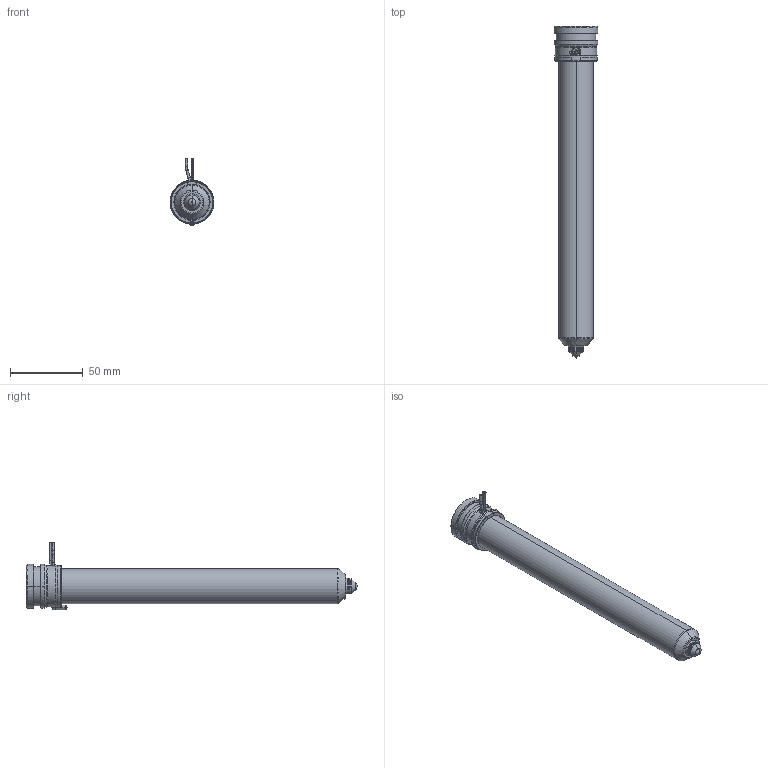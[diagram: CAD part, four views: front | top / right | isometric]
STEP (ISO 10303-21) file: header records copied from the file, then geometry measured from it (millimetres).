
FILE_DESCRIPTION((''),'2;1');
FILE_NAME('MPN-10-29-VX10-206-A','2026-02-05T12:41:54',('UPTIO'),('Thermoplay S.p.A.'),'CREO PARAMETRIC BY PTC INC, 2023494','CREO PARAMETRIC BY PTC INC, 2023494','');
FILE_SCHEMA(('CONFIG_CONTROL_DESIGN','SHAPE_APPEARANCE_LAYERS_GROUPS'));
Length unit declared in the file: millimetre
Products named in the file (1): MPN-10-29-VX10-206-A
Bounding box: 30 x 227.5 x 46 mm (x, y, z)
Volume: 69787.6 mm3; surface area: 71089 mm2
Topology: 2 solids, 3 shells, 557 faces, 1459 edges, 901 vertices
Faces by surface type: cylinder 182, plane 144, bspline 76, torus 72, cone 70, sphere 9, extrusion 4
Entity records: 30615 total; most frequent: CARTESIAN_POINT 14108, ORIENTED_EDGE 2906, DIRECTION 2711, EDGE_CURVE 1453, AXIS2_PLACEMENT_3D 1078, VERTEX_POINT 901, CIRCLE 600, EDGE_LOOP 586
